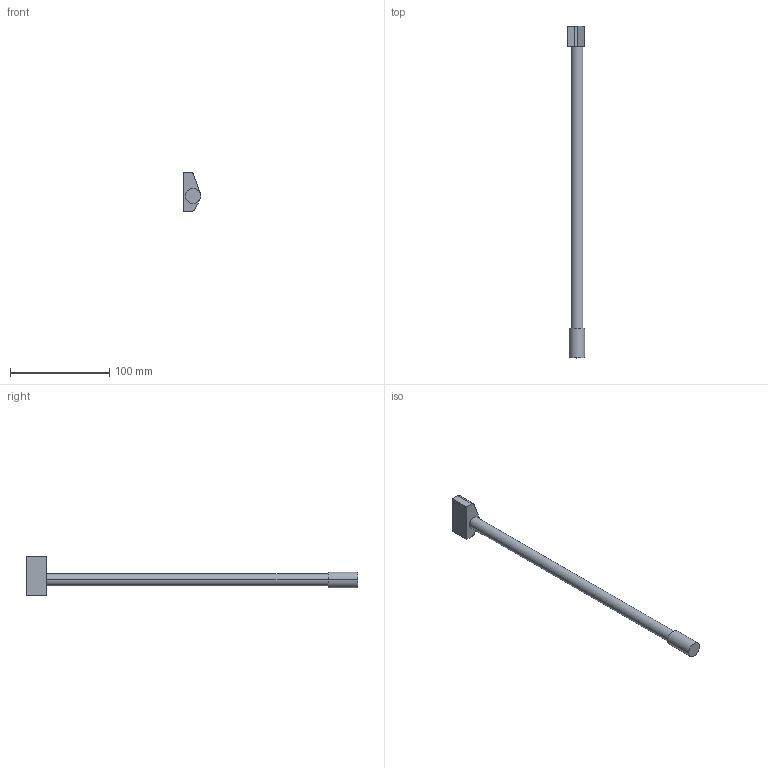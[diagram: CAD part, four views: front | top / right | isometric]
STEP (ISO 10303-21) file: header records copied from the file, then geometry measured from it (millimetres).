
FILE_DESCRIPTION (( 'STEP AP214' ), '1' );
FILE_NAME ('DWD-XP-Anschraubreling _NL-350_rechts.step', '2010-09-27T06:30:45', ( 'grass' ), ( '' ), 'SwSTEP 2.0', 'SolidWorks 2010', '' );
FILE_SCHEMA (( 'AUTOMOTIVE_DESIGN' ));
Length unit declared in the file: millimetre
Products named in the file (1): DWD-XP-Anschraubreling _NL-350_rechts
Bounding box: 18 x 334.3 x 40.1 mm (x, y, z)
Volume: 49359.2 mm3; surface area: 15537.1 mm2
Topology: 1 solids, 1 shells, 17 faces, 39 edges, 26 vertices
Faces by surface type: plane 9, cylinder 8
Entity records: 523 total; most frequent: DIRECTION 91, CARTESIAN_POINT 83, ORIENTED_EDGE 78, EDGE_CURVE 39, AXIS2_PLACEMENT_3D 34, VERTEX_POINT 26, VECTOR 23, LINE 23
